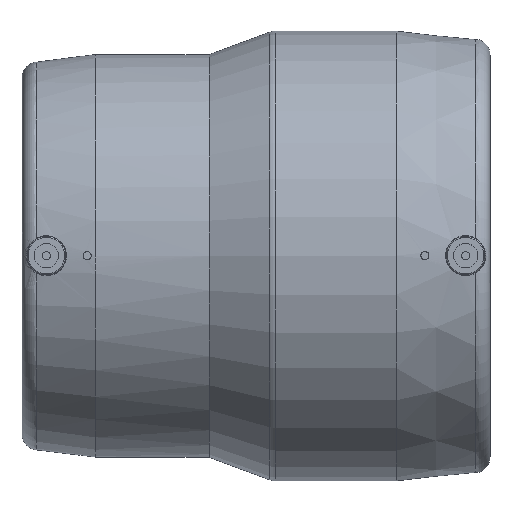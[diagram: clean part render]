
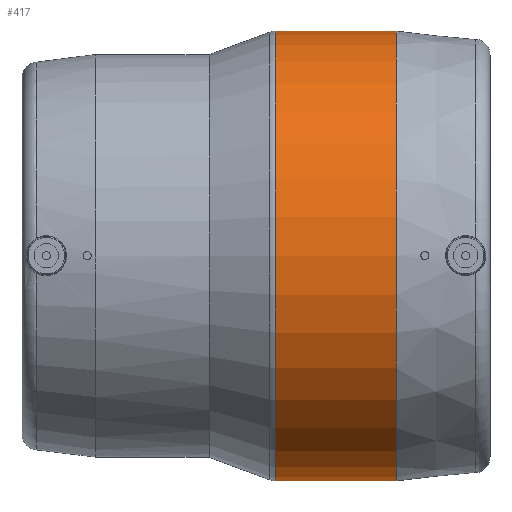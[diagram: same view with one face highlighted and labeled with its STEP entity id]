
A CAD part, top view. The second image highlights one B-rep face of the part: STEP entity #417.
In plain terms, the highlighted cylindrical face has radius 110.5 mm (diameter 221 mm), a full revolution.
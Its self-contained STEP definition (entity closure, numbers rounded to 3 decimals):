
#56=CYLINDRICAL_SURFACE('',#472,110.5);
#70=CIRCLE('',#464,110.5);
#76=CIRCLE('',#473,110.5);
#111=ORIENTED_EDGE('',*,*,#200,.T.);
#112=ORIENTED_EDGE('',*,*,#190,.T.);
#190=EDGE_CURVE('',#235,#235,#70,.T.);
#200=EDGE_CURVE('',#244,#244,#76,.T.);
#235=VERTEX_POINT('',#685);
#244=VERTEX_POINT('',#727);
#285=EDGE_LOOP('',(#111));
#286=EDGE_LOOP('',(#112));
#350=FACE_BOUND('',#285,.T.);
#351=FACE_BOUND('',#286,.T.);
#417=ADVANCED_FACE('',(#350,#351),#56,.T.);
#464=AXIS2_PLACEMENT_3D('',#684,#532,#533);
#472=AXIS2_PLACEMENT_3D('',#725,#550,#551);
#473=AXIS2_PLACEMENT_3D('',#726,#552,#553);
#532=DIRECTION('',(-1.,0.,0.));
#533=DIRECTION('',(0.,0.,1.));
#550=DIRECTION('',(-1.,0.,0.));
#551=DIRECTION('',(0.,0.,1.));
#552=DIRECTION('',(1.,0.,0.));
#553=DIRECTION('',(0.,0.,-1.));
#684=CARTESIAN_POINT('',(76.5,0.,0.));
#685=CARTESIAN_POINT('',(76.5,0.,110.5));
#725=CARTESIAN_POINT('',(-60.,0.,0.));
#726=CARTESIAN_POINT('',(16.936,0.,0.));
#727=CARTESIAN_POINT('',(16.936,0.,-110.5));
